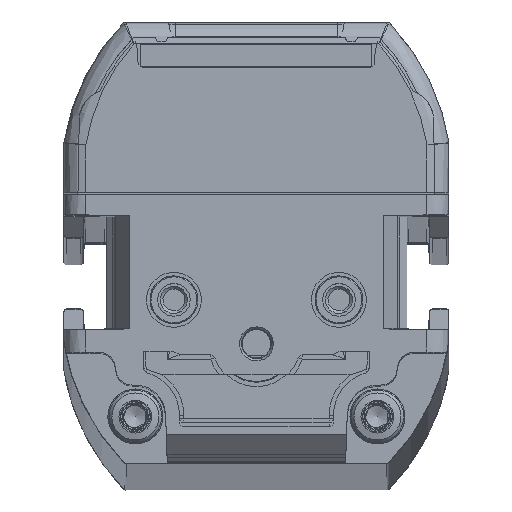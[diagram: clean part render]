
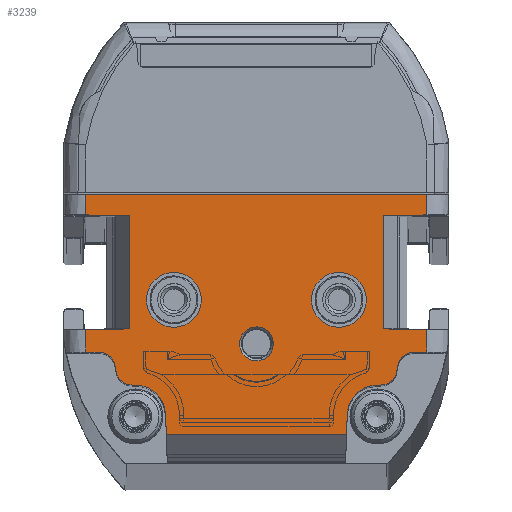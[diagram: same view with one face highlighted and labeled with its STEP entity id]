
A CAD part, top view. The second image highlights one B-rep face of the part: STEP entity #3239.
In plain terms, the highlighted planar face has unit normal (0, 0, 1).
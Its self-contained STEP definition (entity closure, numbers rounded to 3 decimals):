
#1178=FACE_BOUND('',#5343,.T.);
#1179=FACE_BOUND('',#5344,.T.);
#1180=FACE_BOUND('',#5345,.T.);
#1181=FACE_BOUND('',#5346,.T.);
#1900=CIRCLE('',#17502,2.5);
#1901=CIRCLE('',#17504,2.5);
#1902=CIRCLE('',#17506,1.55);
#1905=CIRCLE('',#17576,1.5);
#1906=CIRCLE('',#17577,1.5);
#1907=CIRCLE('',#17578,1.5);
#1908=CIRCLE('',#17579,1.5);
#1909=CIRCLE('',#17580,2.75);
#1910=CIRCLE('',#17581,2.75);
#3239=ADVANCED_FACE('',(#1178,#1179,#1180,#1181),#3754,.T.);
#3754=PLANE('',#17582);
#5343=EDGE_LOOP('',(#9281));
#5344=EDGE_LOOP('',(#9282));
#5345=EDGE_LOOP('',(#9283));
#5346=EDGE_LOOP('',(#9284,#9285,#9286,#9287,#9288,#9289,#9290,#9291,#9292,
#9293,#9294,#9295,#9296,#9297,#9298,#9299,#9300,#9301,#9302,#9303,#9304,
#9305,#9306,#9307,#9308,#9309));
#9281=ORIENTED_EDGE('',*,*,#13579,.T.);
#9282=ORIENTED_EDGE('',*,*,#13578,.F.);
#9283=ORIENTED_EDGE('',*,*,#13577,.F.);
#9284=ORIENTED_EDGE('',*,*,#13699,.F.);
#9285=ORIENTED_EDGE('',*,*,#13700,.T.);
#9286=ORIENTED_EDGE('',*,*,#13701,.T.);
#9287=ORIENTED_EDGE('',*,*,#13702,.T.);
#9288=ORIENTED_EDGE('',*,*,#13630,.T.);
#9289=ORIENTED_EDGE('',*,*,#13576,.T.);
#9290=ORIENTED_EDGE('',*,*,#13573,.T.);
#9291=ORIENTED_EDGE('',*,*,#13572,.T.);
#9292=ORIENTED_EDGE('',*,*,#13698,.T.);
#9293=ORIENTED_EDGE('',*,*,#13703,.F.);
#9294=ORIENTED_EDGE('',*,*,#13704,.F.);
#9295=ORIENTED_EDGE('',*,*,#13705,.F.);
#9296=ORIENTED_EDGE('',*,*,#13692,.T.);
#9297=ORIENTED_EDGE('',*,*,#13568,.F.);
#9298=ORIENTED_EDGE('',*,*,#13564,.T.);
#9299=ORIENTED_EDGE('',*,*,#13563,.F.);
#9300=ORIENTED_EDGE('',*,*,#13603,.T.);
#9301=ORIENTED_EDGE('',*,*,#13706,.F.);
#9302=ORIENTED_EDGE('',*,*,#13707,.T.);
#9303=ORIENTED_EDGE('',*,*,#13708,.T.);
#9304=ORIENTED_EDGE('',*,*,#13709,.F.);
#9305=ORIENTED_EDGE('',*,*,#13710,.F.);
#9306=ORIENTED_EDGE('',*,*,#13711,.F.);
#9307=ORIENTED_EDGE('',*,*,#13611,.T.);
#9308=ORIENTED_EDGE('',*,*,#13712,.F.);
#9309=ORIENTED_EDGE('',*,*,#13713,.F.);
#11499=VERTEX_POINT('',#29891);
#11500=VERTEX_POINT('',#29893);
#11501=VERTEX_POINT('',#29897);
#11502=VERTEX_POINT('',#29901);
#11504=VERTEX_POINT('',#29907);
#11506=VERTEX_POINT('',#29911);
#11507=VERTEX_POINT('',#29915);
#11508=VERTEX_POINT('',#29919);
#11509=VERTEX_POINT('',#29923);
#11510=VERTEX_POINT('',#29926);
#11511=VERTEX_POINT('',#29929);
#11528=VERTEX_POINT('',#30023);
#11533=VERTEX_POINT('',#30037);
#11534=VERTEX_POINT('',#30039);
#11547=VERTEX_POINT('',#30079);
#11581=VERTEX_POINT('',#30332);
#11585=VERTEX_POINT('',#30342);
#11586=VERTEX_POINT('',#30346);
#11587=VERTEX_POINT('',#30347);
#11588=VERTEX_POINT('',#30349);
#11589=VERTEX_POINT('',#30351);
#11590=VERTEX_POINT('',#30354);
#11591=VERTEX_POINT('',#30356);
#11592=VERTEX_POINT('',#30359);
#11593=VERTEX_POINT('',#30361);
#11594=VERTEX_POINT('',#30363);
#11595=VERTEX_POINT('',#30365);
#11596=VERTEX_POINT('',#30367);
#11597=VERTEX_POINT('',#30370);
#13563=EDGE_CURVE('',#11500,#11499,#15088,.T.);
#13564=EDGE_CURVE('',#11501,#11499,#15089,.T.);
#13568=EDGE_CURVE('',#11501,#11502,#15092,.T.);
#13572=EDGE_CURVE('',#11504,#11506,#15095,.T.);
#13573=EDGE_CURVE('',#11507,#11504,#15096,.T.);
#13576=EDGE_CURVE('',#11508,#11507,#15098,.T.);
#13577=EDGE_CURVE('',#11509,#11509,#1900,.T.);
#13578=EDGE_CURVE('',#11510,#11510,#1901,.T.);
#13579=EDGE_CURVE('',#11511,#11511,#1902,.T.);
#13603=EDGE_CURVE('',#11500,#11528,#15113,.T.);
#13611=EDGE_CURVE('',#11533,#11534,#15119,.T.);
#13630=EDGE_CURVE('',#11547,#11508,#15132,.T.);
#13692=EDGE_CURVE('',#11581,#11502,#15175,.T.);
#13698=EDGE_CURVE('',#11506,#11585,#15177,.T.);
#13699=EDGE_CURVE('',#11586,#11587,#15178,.T.);
#13700=EDGE_CURVE('',#11586,#11588,#1905,.T.);
#13701=EDGE_CURVE('',#11588,#11589,#1906,.T.);
#13702=EDGE_CURVE('',#11589,#11547,#15179,.T.);
#13703=EDGE_CURVE('',#11590,#11585,#15180,.T.);
#13704=EDGE_CURVE('',#11591,#11590,#15181,.T.);
#13705=EDGE_CURVE('',#11581,#11591,#15182,.T.);
#13706=EDGE_CURVE('',#11592,#11528,#15183,.T.);
#13707=EDGE_CURVE('',#11592,#11593,#1907,.T.);
#13708=EDGE_CURVE('',#11593,#11594,#1908,.T.);
#13709=EDGE_CURVE('',#11595,#11594,#15184,.T.);
#13710=EDGE_CURVE('',#11596,#11595,#1909,.T.);
#13711=EDGE_CURVE('',#11533,#11596,#15185,.T.);
#13712=EDGE_CURVE('',#11597,#11534,#15186,.T.);
#13713=EDGE_CURVE('',#11587,#11597,#1910,.T.);
#15088=LINE('',#29894,#16251);
#15089=LINE('',#29896,#16252);
#15092=LINE('',#29904,#16255);
#15095=LINE('',#29912,#16258);
#15096=LINE('',#29914,#16259);
#15098=LINE('',#29920,#16261);
#15113=LINE('',#30024,#16276);
#15119=LINE('',#30040,#16282);
#15132=LINE('',#30078,#16295);
#15175=LINE('',#30331,#16338);
#15177=LINE('',#30343,#16340);
#15178=LINE('',#30345,#16341);
#15179=LINE('',#30352,#16342);
#15180=LINE('',#30353,#16343);
#15181=LINE('',#30355,#16344);
#15182=LINE('',#30357,#16345);
#15183=LINE('',#30358,#16346);
#15184=LINE('',#30364,#16347);
#15185=LINE('',#30368,#16348);
#15186=LINE('',#30369,#16349);
#16251=VECTOR('',#20699,1.);
#16252=VECTOR('',#20702,1.);
#16255=VECTOR('',#20709,1.);
#16258=VECTOR('',#20716,1.);
#16259=VECTOR('',#20719,1.);
#16261=VECTOR('',#20725,1.);
#16276=VECTOR('',#20776,1.);
#16282=VECTOR('',#20790,1.);
#16295=VECTOR('',#20829,1.);
#16338=VECTOR('',#20940,1.);
#16340=VECTOR('',#20952,1.);
#16341=VECTOR('',#20955,1.);
#16342=VECTOR('',#20960,1.);
#16343=VECTOR('',#20961,1.);
#16344=VECTOR('',#20962,1.);
#16345=VECTOR('',#20963,1.);
#16346=VECTOR('',#20964,1.);
#16347=VECTOR('',#20969,1.);
#16348=VECTOR('',#20972,1.);
#16349=VECTOR('',#20973,1.);
#17502=AXIS2_PLACEMENT_3D('',#29922,#20728,#20729);
#17504=AXIS2_PLACEMENT_3D('',#29925,#20732,#20733);
#17506=AXIS2_PLACEMENT_3D('',#29928,#20736,#20737);
#17576=AXIS2_PLACEMENT_3D('',#30348,#20956,#20957);
#17577=AXIS2_PLACEMENT_3D('',#30350,#20958,#20959);
#17578=AXIS2_PLACEMENT_3D('',#30360,#20965,#20966);
#17579=AXIS2_PLACEMENT_3D('',#30362,#20967,#20968);
#17580=AXIS2_PLACEMENT_3D('',#30366,#20970,#20971);
#17581=AXIS2_PLACEMENT_3D('',#30371,#20974,#20975);
#17582=AXIS2_PLACEMENT_3D('',#30372,#20976,#20977);
#20699=DIRECTION('',(1.,0.017,0.));
#20702=DIRECTION('',(0.,-1.,0.));
#20709=DIRECTION('',(-1.,0.017,0.));
#20716=DIRECTION('',(1.,0.017,0.));
#20719=DIRECTION('',(0.,1.,0.));
#20725=DIRECTION('',(-1.,0.017,0.));
#20728=DIRECTION('',(0.,0.,1.));
#20729=DIRECTION('',(1.,0.,0.));
#20732=DIRECTION('',(0.,0.,1.));
#20733=DIRECTION('',(1.,0.,0.));
#20736=DIRECTION('',(0.,0.,-1.));
#20737=DIRECTION('',(1.,0.,0.));
#20776=DIRECTION('',(0.,-1.,0.));
#20790=DIRECTION('',(1.,0.,0.));
#20829=DIRECTION('',(0.,1.,0.));
#20940=DIRECTION('',(0.,-1.,0.));
#20952=DIRECTION('',(0.,1.,0.));
#20955=DIRECTION('',(-1.,0.,0.));
#20956=DIRECTION('',(0.,0.,1.));
#20957=DIRECTION('',(1.,0.,0.));
#20958=DIRECTION('',(0.,0.,-1.));
#20959=DIRECTION('',(1.,0.,0.));
#20960=DIRECTION('',(1.,0.,0.));
#20961=DIRECTION('',(1.,-0.017,0.));
#20962=DIRECTION('',(1.,0.,0.));
#20963=DIRECTION('',(1.,0.017,0.));
#20964=DIRECTION('',(-1.,0.,0.));
#20965=DIRECTION('',(0.,0.,-1.));
#20966=DIRECTION('',(1.,0.,0.));
#20967=DIRECTION('',(0.,0.,1.));
#20968=DIRECTION('',(1.,0.,0.));
#20969=DIRECTION('',(-1.,0.,0.));
#20970=DIRECTION('',(0.,0.,1.));
#20971=DIRECTION('',(1.,0.,0.));
#20972=DIRECTION('',(-0.035,0.999,0.));
#20973=DIRECTION('',(-0.035,-0.999,0.));
#20974=DIRECTION('',(0.,0.,1.));
#20975=DIRECTION('',(1.,0.,0.));
#20976=DIRECTION('',(0.,0.,1.));
#20977=DIRECTION('',(1.,0.,0.));
#29891=CARTESIAN_POINT('',(-11.55,12.107,1449.));
#29893=CARTESIAN_POINT('',(-15.5,12.038,1449.));
#29894=CARTESIAN_POINT('',(-17.709,11.999,1449.));
#29896=CARTESIAN_POINT('',(-11.55,0.,1449.));
#29897=CARTESIAN_POINT('',(-11.55,22.393,1449.));
#29901=CARTESIAN_POINT('',(-15.5,22.462,1449.));
#29904=CARTESIAN_POINT('',(-17.107,22.49,1449.));
#29907=CARTESIAN_POINT('',(11.55,22.393,1449.));
#29911=CARTESIAN_POINT('',(15.5,22.462,1449.));
#29912=CARTESIAN_POINT('',(-17.882,21.88,1449.));
#29914=CARTESIAN_POINT('',(11.55,0.,1449.));
#29915=CARTESIAN_POINT('',(11.55,12.107,1449.));
#29919=CARTESIAN_POINT('',(15.5,12.038,1449.));
#29920=CARTESIAN_POINT('',(-17.28,12.61,1449.));
#29922=CARTESIAN_POINT('',(-7.5,14.75,1449.));
#29923=CARTESIAN_POINT('',(-5.,14.75,1449.));
#29925=CARTESIAN_POINT('',(7.5,14.75,1449.));
#29926=CARTESIAN_POINT('',(10.,14.75,1449.));
#29928=CARTESIAN_POINT('',(0.,10.75,1449.));
#29929=CARTESIAN_POINT('',(1.55,10.75,1449.));
#30023=CARTESIAN_POINT('',(-15.5,10.,1449.));
#30024=CARTESIAN_POINT('',(-15.5,0.,1449.));
#30037=CARTESIAN_POINT('',(-8.189,2.5,1449.));
#30039=CARTESIAN_POINT('',(8.189,2.5,1449.));
#30040=CARTESIAN_POINT('',(-17.5,2.5,1449.));
#30078=CARTESIAN_POINT('',(15.5,0.,1449.));
#30079=CARTESIAN_POINT('',(15.5,10.,1449.));
#30331=CARTESIAN_POINT('',(-15.5,0.,1449.));
#30332=CARTESIAN_POINT('',(-15.5,24.317,1449.));
#30342=CARTESIAN_POINT('',(15.5,24.317,1449.));
#30343=CARTESIAN_POINT('',(15.5,0.,1449.));
#30345=CARTESIAN_POINT('',(23.25,7.,1449.));
#30346=CARTESIAN_POINT('',(11.3,7.,1449.));
#30347=CARTESIAN_POINT('',(11.002,7.,1449.));
#30348=CARTESIAN_POINT('',(11.3,8.5,1449.));
#30349=CARTESIAN_POINT('',(12.8,8.5,1449.));
#30350=CARTESIAN_POINT('',(14.3,8.5,1449.));
#30351=CARTESIAN_POINT('',(14.3,10.,1449.));
#30352=CARTESIAN_POINT('',(-17.5,10.,1449.));
#30353=CARTESIAN_POINT('',(-17.066,24.886,1449.));
#30354=CARTESIAN_POINT('',(13.025,24.36,1449.));
#30355=CARTESIAN_POINT('',(-17.5,24.36,1449.));
#30356=CARTESIAN_POINT('',(-13.025,24.36,1449.));
#30357=CARTESIAN_POINT('',(-17.924,24.275,1449.));
#30358=CARTESIAN_POINT('',(-17.5,10.,1449.));
#30359=CARTESIAN_POINT('',(-14.3,10.,1449.));
#30360=CARTESIAN_POINT('',(-14.3,8.5,1449.));
#30361=CARTESIAN_POINT('',(-12.8,8.5,1449.));
#30362=CARTESIAN_POINT('',(-11.3,8.5,1449.));
#30363=CARTESIAN_POINT('',(-11.3,7.,1449.));
#30364=CARTESIAN_POINT('',(-11.,7.,1449.));
#30365=CARTESIAN_POINT('',(-11.002,7.,1449.));
#30366=CARTESIAN_POINT('',(-11.002,4.25,1449.));
#30367=CARTESIAN_POINT('',(-8.253,4.346,1449.));
#30368=CARTESIAN_POINT('',(-8.25,4.25,1449.));
#30369=CARTESIAN_POINT('',(8.25,4.25,1449.));
#30370=CARTESIAN_POINT('',(8.253,4.346,1449.));
#30371=CARTESIAN_POINT('',(11.002,4.25,1449.));
#30372=CARTESIAN_POINT('',(-17.5,0.,1449.));
